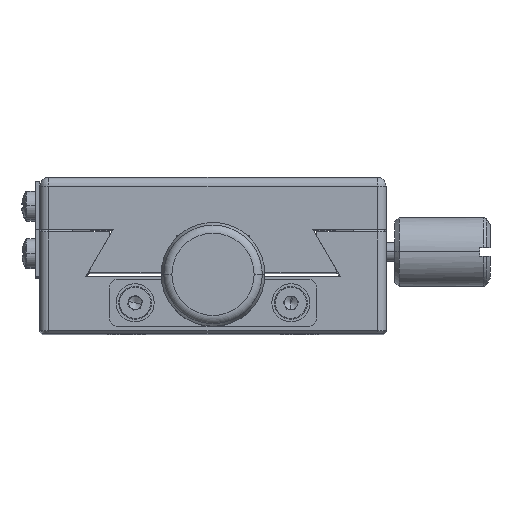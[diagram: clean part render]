
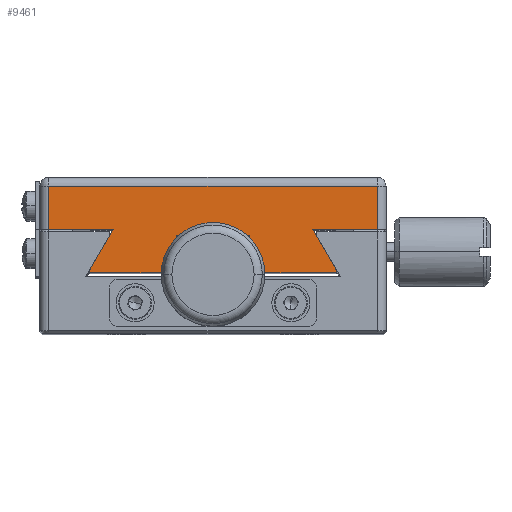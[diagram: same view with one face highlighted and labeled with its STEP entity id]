
A CAD part, top view. The second image highlights one B-rep face of the part: STEP entity #9461.
In plain terms, the highlighted planar face has unit normal (0, 0, 1).
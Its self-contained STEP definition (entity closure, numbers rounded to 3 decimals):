
#207 = VECTOR ( 'NONE', #63412, 1000. ) ;
#265 = CARTESIAN_POINT ( 'NONE',  ( -20., 24., 45. ) ) ;
#333 = CARTESIAN_POINT ( 'NONE',  ( -20., 13., 45. ) ) ;
#1063 = VECTOR ( 'NONE', #20804, 1000. ) ;
#1120 = DIRECTION ( 'NONE',  ( -1., 0., 0. ) ) ;
#1685 = VERTEX_POINT ( 'NONE', #76588 ) ;
#1880 = CARTESIAN_POINT ( 'NONE',  ( -14.423, 13., 45. ) ) ;
#3031 = LINE ( 'NONE', #33427, #1063 ) ;
#4368 = EDGE_LOOP ( 'NONE', ( #65847, #58199, #17839, #10959, #28971, #78241, #7849, #61273, #77499, #9518, #74389, #20334, #41165, #74145 ) ) ;
#5110 = LINE ( 'NONE', #15499, #38429 ) ;
#6561 = VECTOR ( 'NONE', #58255, 1000. ) ;
#7073 = DIRECTION ( 'NONE',  ( -1., 0., 0. ) ) ;
#7287 = LINE ( 'NONE', #78915, #55422 ) ;
#7845 = CARTESIAN_POINT ( 'NONE',  ( 11.536, 18., 45. ) ) ;
#7849 = ORIENTED_EDGE ( 'NONE', *, *, #54852, .F. ) ;
#8167 = CARTESIAN_POINT ( 'NONE',  ( -4.25, 17.3, 45. ) ) ;
#8173 = DIRECTION ( 'NONE',  ( 0.5, 0.866, 0. ) ) ;
#8443 = DIRECTION ( 'NONE',  ( -1., 0., 0. ) ) ;
#8501 = VECTOR ( 'NONE', #38292, 1000. ) ;
#9461 = ADVANCED_FACE ( 'NONE', ( #51441 ), #69271, .F. ) ;
#9518 = ORIENTED_EDGE ( 'NONE', *, *, #40732, .F. ) ;
#10959 = ORIENTED_EDGE ( 'NONE', *, *, #67842, .T. ) ;
#11090 = DIRECTION ( 'NONE',  ( -1., 0., 0. ) ) ;
#12047 = VERTEX_POINT ( 'NONE', #54648 ) ;
#12885 = CARTESIAN_POINT ( 'NONE',  ( -20., 13., 45. ) ) ;
#14213 = DIRECTION ( 'NONE',  ( 0., -1., 0. ) ) ;
#15499 = CARTESIAN_POINT ( 'NONE',  ( 4.25, 17.3, 45. ) ) ;
#16297 = LINE ( 'NONE', #8167, #81271 ) ;
#16621 = DIRECTION ( 'NONE',  ( 0.5, -0.866, 0. ) ) ;
#17719 = EDGE_CURVE ( 'NONE', #49694, #50767, #37137, .T. ) ;
#17839 = ORIENTED_EDGE ( 'NONE', *, *, #65551, .T. ) ;
#18575 = VERTEX_POINT ( 'NONE', #35220 ) ;
#19345 = CARTESIAN_POINT ( 'NONE',  ( -14.25, 18., 45. ) ) ;
#20334 = ORIENTED_EDGE ( 'NONE', *, *, #78130, .T. ) ;
#20535 = CARTESIAN_POINT ( 'NONE',  ( 14.25, 13.3, 45. ) ) ;
#20804 = DIRECTION ( 'NONE',  ( 0., 1., 0. ) ) ;
#20985 = VERTEX_POINT ( 'NONE', #37114 ) ;
#21793 = DIRECTION ( 'NONE',  ( 0., 1., 0. ) ) ;
#21806 = EDGE_CURVE ( 'NONE', #1685, #28372, #73379, .T. ) ;
#23720 = LINE ( 'NONE', #333, #57116 ) ;
#23750 = CARTESIAN_POINT ( 'NONE',  ( 14.25, 13., 45. ) ) ;
#24978 = CARTESIAN_POINT ( 'NONE',  ( -19., 18., 45. ) ) ;
#27302 = VECTOR ( 'NONE', #1120, 1000. ) ;
#28372 = VERTEX_POINT ( 'NONE', #7845 ) ;
#28971 = ORIENTED_EDGE ( 'NONE', *, *, #17719, .F. ) ;
#33050 = EDGE_CURVE ( 'NONE', #37354, #80803, #77018, .T. ) ;
#33427 = CARTESIAN_POINT ( 'NONE',  ( 19., 24., 45. ) ) ;
#35220 = CARTESIAN_POINT ( 'NONE',  ( -4.25, 13., 45. ) ) ;
#37114 = CARTESIAN_POINT ( 'NONE',  ( 4.25, 13., 45. ) ) ;
#37137 = LINE ( 'NONE', #63911, #70611 ) ;
#37305 = DIRECTION ( 'NONE',  ( -1., 0., 0. ) ) ;
#37354 = VERTEX_POINT ( 'NONE', #20535 ) ;
#38292 = DIRECTION ( 'NONE',  ( 0., 1., 0. ) ) ;
#38429 = VECTOR ( 'NONE', #21793, 1000. ) ;
#38670 = CARTESIAN_POINT ( 'NONE',  ( -20., 23., 45. ) ) ;
#40732 = EDGE_CURVE ( 'NONE', #79059, #42523, #16297, .T. ) ;
#40846 = EDGE_CURVE ( 'NONE', #28372, #37354, #64491, .T. ) ;
#41108 = VERTEX_POINT ( 'NONE', #63002 ) ;
#41165 = ORIENTED_EDGE ( 'NONE', *, *, #33050, .F. ) ;
#41892 = LINE ( 'NONE', #51969, #6561 ) ;
#42523 = VERTEX_POINT ( 'NONE', #71198 ) ;
#42524 = CARTESIAN_POINT ( 'NONE',  ( 11.536, 18., 45. ) ) ;
#43299 = CARTESIAN_POINT ( 'NONE',  ( 4.25, 17.3, 45. ) ) ;
#43820 = LINE ( 'NONE', #19345, #8501 ) ;
#48068 = LINE ( 'NONE', #1880, #79619 ) ;
#49247 = EDGE_CURVE ( 'NONE', #41108, #18575, #23720, .T. ) ;
#49694 = VERTEX_POINT ( 'NONE', #49885 ) ;
#49885 = CARTESIAN_POINT ( 'NONE',  ( -11.536, 18., 45. ) ) ;
#50767 = VERTEX_POINT ( 'NONE', #24978 ) ;
#51441 = FACE_OUTER_BOUND ( 'NONE', #4368, .T. ) ;
#51631 = DIRECTION ( 'NONE',  ( 1., 0., 0. ) ) ;
#51969 = CARTESIAN_POINT ( 'NONE',  ( -19., 24., 45. ) ) ;
#52270 = LINE ( 'NONE', #12885, #207 ) ;
#54648 = CARTESIAN_POINT ( 'NONE',  ( -14.25, 13.3, 45. ) ) ;
#54852 = EDGE_CURVE ( 'NONE', #41108, #12047, #43820, .T. ) ;
#55323 = CARTESIAN_POINT ( 'NONE',  ( -19., 23., 45. ) ) ;
#55422 = VECTOR ( 'NONE', #59891, 1000. ) ;
#56555 = VECTOR ( 'NONE', #16621, 1000. ) ;
#57116 = VECTOR ( 'NONE', #51631, 1000. ) ;
#57637 = DIRECTION ( 'NONE',  ( 0., 0., -1. ) ) ;
#58199 = ORIENTED_EDGE ( 'NONE', *, *, #72726, .T. ) ;
#58238 = VECTOR ( 'NONE', #14213, 1000. ) ;
#58255 = DIRECTION ( 'NONE',  ( 0., -1., 0. ) ) ;
#59891 = DIRECTION ( 'NONE',  ( 0., -1., 0. ) ) ;
#60971 = EDGE_CURVE ( 'NONE', #12047, #49694, #48068, .T. ) ;
#61273 = ORIENTED_EDGE ( 'NONE', *, *, #49247, .T. ) ;
#62710 = LINE ( 'NONE', #38670, #27302 ) ;
#63002 = CARTESIAN_POINT ( 'NONE',  ( -14.25, 13., 45. ) ) ;
#63324 = VERTEX_POINT ( 'NONE', #55323 ) ;
#63412 = DIRECTION ( 'NONE',  ( 1., 0., 0. ) ) ;
#63911 = CARTESIAN_POINT ( 'NONE',  ( -11.536, 18., 45. ) ) ;
#64491 = LINE ( 'NONE', #79319, #56555 ) ;
#65551 = EDGE_CURVE ( 'NONE', #80145, #63324, #62710, .T. ) ;
#65847 = ORIENTED_EDGE ( 'NONE', *, *, #21806, .F. ) ;
#67842 = EDGE_CURVE ( 'NONE', #63324, #50767, #41892, .T. ) ;
#69271 = PLANE ( 'NONE',  #78947 ) ;
#70611 = VECTOR ( 'NONE', #7073, 1000. ) ;
#71198 = CARTESIAN_POINT ( 'NONE',  ( -4.25, 17.3, 45. ) ) ;
#72726 = EDGE_CURVE ( 'NONE', #1685, #80145, #3031, .T. ) ;
#73379 = LINE ( 'NONE', #42524, #77293 ) ;
#74145 = ORIENTED_EDGE ( 'NONE', *, *, #40846, .F. ) ;
#74389 = ORIENTED_EDGE ( 'NONE', *, *, #77284, .F. ) ;
#75118 = EDGE_CURVE ( 'NONE', #42523, #18575, #7287, .T. ) ;
#75306 = CARTESIAN_POINT ( 'NONE',  ( 19., 23., 45. ) ) ;
#76588 = CARTESIAN_POINT ( 'NONE',  ( 19., 18., 45. ) ) ;
#77018 = LINE ( 'NONE', #77460, #58238 ) ;
#77284 = EDGE_CURVE ( 'NONE', #20985, #79059, #5110, .T. ) ;
#77293 = VECTOR ( 'NONE', #11090, 1000. ) ;
#77460 = CARTESIAN_POINT ( 'NONE',  ( 14.25, 13., 45. ) ) ;
#77499 = ORIENTED_EDGE ( 'NONE', *, *, #75118, .F. ) ;
#78130 = EDGE_CURVE ( 'NONE', #20985, #80803, #52270, .T. ) ;
#78241 = ORIENTED_EDGE ( 'NONE', *, *, #60971, .F. ) ;
#78915 = CARTESIAN_POINT ( 'NONE',  ( -4.25, 17.3, 45. ) ) ;
#78947 = AXIS2_PLACEMENT_3D ( 'NONE', #265, #57637, #37305 ) ;
#79059 = VERTEX_POINT ( 'NONE', #43299 ) ;
#79319 = CARTESIAN_POINT ( 'NONE',  ( 11.536, 18., 45. ) ) ;
#79619 = VECTOR ( 'NONE', #8173, 1000. ) ;
#80145 = VERTEX_POINT ( 'NONE', #75306 ) ;
#80803 = VERTEX_POINT ( 'NONE', #23750 ) ;
#81271 = VECTOR ( 'NONE', #8443, 1000. ) ;
